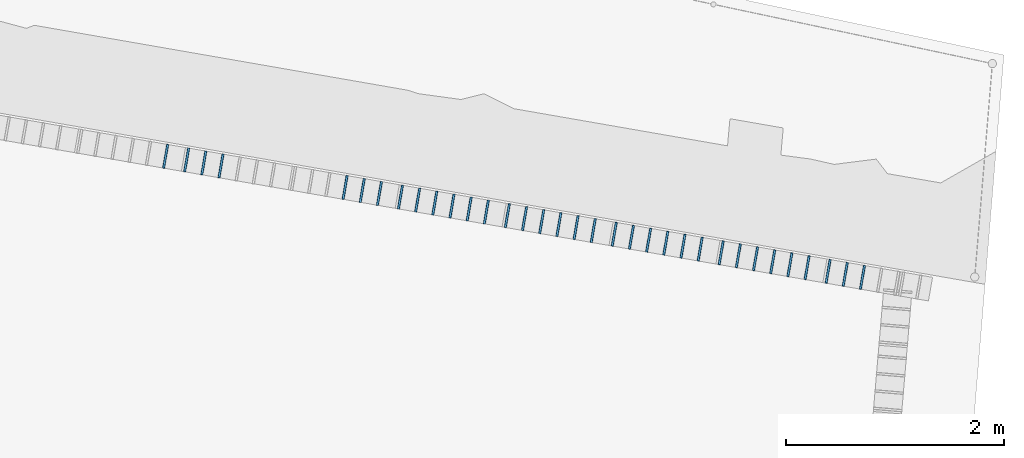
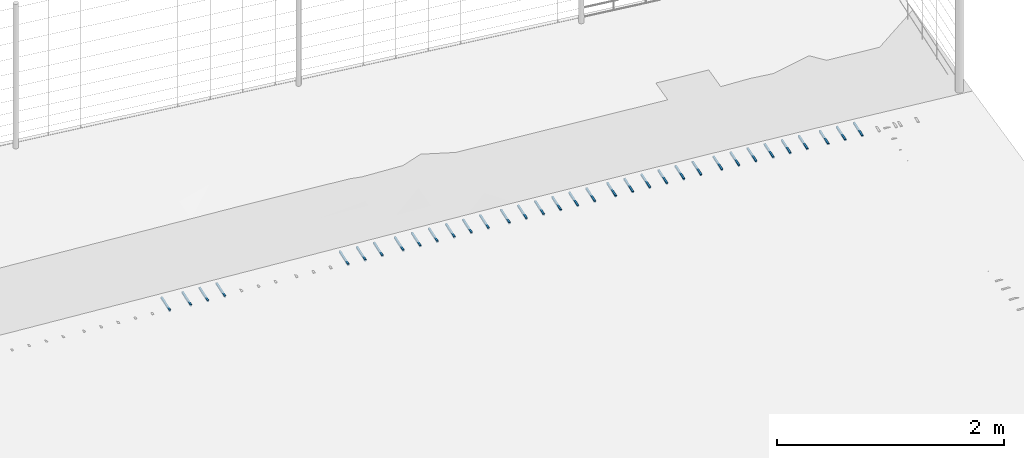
# Not in any storey, part 22 of 72: 34 members.
"""IFC4 model written with IfcOpenShell, lengths in metres."""

from ifc_helpers import new_model, si_unit, direction, frame, origin_with_axes, place, context, subcontext, project, spatial, rectangle, extrude, material, material_profile, profile_set, profile_usage, type_object, element, save


model = new_model("IFC4")

# Units and contexts
model_context = context("Model", 3, precision=1e-05, world=origin_with_axes(), true_north=direction((0.0, 1.0)))
body_context = subcontext(model_context, "Body", "Model", "MODEL_VIEW")
ifc_project = project(units=[si_unit("AREAUNIT", "SQUARE_METRE"), si_unit("VOLUMEUNIT", "CUBIC_METRE"), si_unit("LENGTHUNIT", "METRE")], contexts=[model_context])

# Site
site_placement = place(None, origin_with_axes())
site = spatial("IfcSite", under=ifc_project, at=site_placement, Name="Lares · Rua das Mercês · artigo 4771")

# Members
ifc_material = material(Name="Aço galvanizado / Stahl verzinkt", Category="steel")
ifc_material_profile = material_profile(ifc_material, rectangle(XDim=0.018, YDim=0.018))
ifc_profile_set = profile_set([ifc_material_profile], Name="R0.018")
ifc_profile_usage_1 = profile_usage(ifc_profile_set)
member_type = type_object("IfcMemberType", Name="R0.018 / galvanized", PredefinedType="NOTDEFINED", material=ifc_profile_set)
member_1_placement = place(site_placement, frame((76.1539265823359, 6.55788740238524, 16.1004053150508), z_axis=(0.171132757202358, 0.985247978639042, 0.0), x_axis=(0.985247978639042, -0.171132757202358, 0.0)))
element("IfcMember", 1, at=member_1_placement, inside=site, type_object=member_type, material=ifc_profile_usage_1, Name="Acesso · dreno lateral raso · grelha", context=body_context, shape_type="SweptSolid", body=[
    extrude(rectangle(XDim=0.018, YDim=0.018), origin_with_axes(), (0.0, 0.0, 1.0), 0.219999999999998),
])
ifc_profile_usage_2 = profile_usage(ifc_profile_set)
member_2_placement = place(site_placement, frame((76.3467559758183, 6.5243939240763, 16.11106252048), z_axis=(0.171131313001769, 0.985248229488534, 0.0), x_axis=(0.985248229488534, -0.171131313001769, 0.0)))
element("IfcMember", 2, at=member_2_placement, inside=site, type_object=member_type, material=ifc_profile_usage_2, Name="Acesso · dreno lateral raso · grelha", context=body_context, shape_type="SweptSolid", body=[
    extrude(rectangle(XDim=0.018, YDim=0.018), origin_with_axes(), (0.0, 0.0, 1.0), 0.219999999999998),
])
ifc_profile_usage_3 = profile_usage(ifc_profile_set)
member_3_placement = place(site_placement, frame((76.5043956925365, 6.49701291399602, 16.1197749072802), z_axis=(0.171131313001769, 0.985248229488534, 0.0), x_axis=(0.985248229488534, -0.171131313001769, 0.0)))
element("IfcMember", 3, at=member_3_placement, inside=site, type_object=member_type, material=ifc_profile_usage_3, Name="Acesso · dreno lateral raso · grelha", context=body_context, shape_type="SweptSolid", body=[
    extrude(rectangle(XDim=0.018, YDim=0.018), origin_with_axes(), (0.0, 0.0, 1.0), 0.219999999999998),
])
ifc_profile_usage_4 = profile_usage(ifc_profile_set)
member_4_placement = place(site_placement, frame((76.6620354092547, 6.46963190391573, 16.1284872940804), z_axis=(0.171131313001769, 0.985248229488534, 0.0), x_axis=(0.985248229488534, -0.171131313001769, 0.0)))
element("IfcMember", 4, at=member_4_placement, inside=site, type_object=member_type, material=ifc_profile_usage_4, Name="Acesso · dreno lateral raso · grelha", context=body_context, shape_type="SweptSolid", body=[
    extrude(rectangle(XDim=0.018, YDim=0.018), origin_with_axes(), (0.0, 0.0, 1.0), 0.219999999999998),
])
ifc_profile_usage_5 = profile_usage(ifc_profile_set)
member_5_placement = place(site_placement, frame((77.8007136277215, 6.2718516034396, 16.1914195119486), z_axis=(0.171129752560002, 0.985248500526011, 0.0), x_axis=(0.985248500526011, -0.171129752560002, 0.0)))
element("IfcMember", 5, at=member_5_placement, inside=site, type_object=member_type, material=ifc_profile_usage_5, Name="Acesso · dreno lateral raso · grelha", context=body_context, shape_type="SweptSolid", body=[
    extrude(rectangle(XDim=0.018, YDim=0.018), origin_with_axes(), (0.0, 0.0, 1.0), 0.220000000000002),
])
ifc_profile_usage_6 = profile_usage(ifc_profile_set)
member_6_placement = place(site_placement, frame((77.9583533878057, 6.24447084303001, 16.2001319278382), z_axis=(0.171129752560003, 0.985248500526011, 0.0), x_axis=(0.985248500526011, -0.171129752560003, 0.0)))
element("IfcMember", 6, at=member_6_placement, inside=site, type_object=member_type, material=ifc_profile_usage_6, Name="Acesso · dreno lateral raso · grelha", context=body_context, shape_type="SweptSolid", body=[
    extrude(rectangle(XDim=0.018, YDim=0.018), origin_with_axes(), (0.0, 0.0, 1.0), 0.220000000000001),
])
ifc_profile_usage_7 = profile_usage(ifc_profile_set)
member_7_placement = place(site_placement, frame((78.1159931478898, 6.21709008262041, 16.2088443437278), z_axis=(0.171129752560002, 0.985248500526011, 0.0), x_axis=(0.985248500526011, -0.171129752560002, 0.0)))
element("IfcMember", 7, at=member_7_placement, inside=site, type_object=member_type, material=ifc_profile_usage_7, Name="Acesso · dreno lateral raso · grelha", context=body_context, shape_type="SweptSolid", body=[
    extrude(rectangle(XDim=0.018, YDim=0.018), origin_with_axes(), (0.0, 0.0, 1.0), 0.220000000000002),
])
ifc_profile_usage_8 = profile_usage(ifc_profile_set)
member_8_placement = place(site_placement, frame((78.3088438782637, 6.18359351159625, 16.2195027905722), z_axis=(0.171128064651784, 0.985248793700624, 0.0), x_axis=(0.985248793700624, -0.171128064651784, 0.0)))
element("IfcMember", 8, at=member_8_placement, inside=site, type_object=member_type, material=ifc_profile_usage_8, Name="Acesso · dreno lateral raso · grelha", context=body_context, shape_type="SweptSolid", body=[
    extrude(rectangle(XDim=0.018, YDim=0.018), origin_with_axes(), (0.0, 0.0, 1.0), 0.219999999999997),
])
ifc_profile_usage_9 = profile_usage(ifc_profile_set)
member_9_placement = place(site_placement, frame((78.4664836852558, 6.15621302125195, 16.2282152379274), z_axis=(0.171128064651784, 0.985248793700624, 0.0), x_axis=(0.985248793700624, -0.171128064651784, 0.0)))
element("IfcMember", 9, at=member_9_placement, inside=site, type_object=member_type, material=ifc_profile_usage_9, Name="Acesso · dreno lateral raso · grelha", context=body_context, shape_type="SweptSolid", body=[
    extrude(rectangle(XDim=0.018, YDim=0.018), origin_with_axes(), (0.0, 0.0, 1.0), 0.219999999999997),
])
ifc_profile_usage_10 = profile_usage(ifc_profile_set)
member_10_placement = place(site_placement, frame((78.6241234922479, 6.12883253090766, 16.2369276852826), z_axis=(0.171128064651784, 0.985248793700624, 0.0), x_axis=(0.985248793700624, -0.171128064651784, 0.0)))
element("IfcMember", 10, at=member_10_placement, inside=site, type_object=member_type, material=ifc_profile_usage_10, Name="Acesso · dreno lateral raso · grelha", context=body_context, shape_type="SweptSolid", body=[
    extrude(rectangle(XDim=0.018, YDim=0.018), origin_with_axes(), (0.0, 0.0, 1.0), 0.219999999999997),
])
ifc_profile_usage_11 = profile_usage(ifc_profile_set)
member_11_placement = place(site_placement, frame((78.78176329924, 6.10145204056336, 16.2456401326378), z_axis=(0.171128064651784, 0.985248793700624, 0.0), x_axis=(0.985248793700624, -0.171128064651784, 0.0)))
element("IfcMember", 11, at=member_11_placement, inside=site, type_object=member_type, material=ifc_profile_usage_11, Name="Acesso · dreno lateral raso · grelha", context=body_context, shape_type="SweptSolid", body=[
    extrude(rectangle(XDim=0.018, YDim=0.018), origin_with_axes(), (0.0, 0.0, 1.0), 0.219999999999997),
])
ifc_profile_usage_12 = profile_usage(ifc_profile_set)
member_12_placement = place(site_placement, frame((78.939403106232, 6.07407155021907, 16.254352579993), z_axis=(0.171128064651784, 0.985248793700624, 0.0), x_axis=(0.985248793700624, -0.171128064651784, 0.0)))
element("IfcMember", 12, at=member_12_placement, inside=site, type_object=member_type, material=ifc_profile_usage_12, Name="Acesso · dreno lateral raso · grelha", context=body_context, shape_type="SweptSolid", body=[
    extrude(rectangle(XDim=0.018, YDim=0.018), origin_with_axes(), (0.0, 0.0, 1.0), 0.219999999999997),
])
ifc_profile_usage_13 = profile_usage(ifc_profile_set)
member_13_placement = place(site_placement, frame((79.0970429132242, 6.04669105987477, 16.2630650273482), z_axis=(0.171128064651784, 0.985248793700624, 0.0), x_axis=(0.985248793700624, -0.171128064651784, 0.0)))
element("IfcMember", 13, at=member_13_placement, inside=site, type_object=member_type, material=ifc_profile_usage_13, Name="Acesso · dreno lateral raso · grelha", context=body_context, shape_type="SweptSolid", body=[
    extrude(rectangle(XDim=0.018, YDim=0.018), origin_with_axes(), (0.0, 0.0, 1.0), 0.219999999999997),
])
ifc_profile_usage_14 = profile_usage(ifc_profile_set)
member_14_placement = place(site_placement, frame((79.2899051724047, 6.01319283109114, 16.2735745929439), z_axis=(0.171126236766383, 0.985249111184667, 0.0), x_axis=(0.985249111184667, -0.171126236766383, 0.0)))
element("IfcMember", 14, at=member_14_placement, inside=site, type_object=member_type, material=ifc_profile_usage_14, Name="Acesso · dreno lateral raso · grelha", context=body_context, shape_type="SweptSolid", body=[
    extrude(rectangle(XDim=0.018, YDim=0.018), origin_with_axes(), (0.0, 0.0, 1.0), 0.220000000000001),
])
ifc_profile_usage_15 = profile_usage(ifc_profile_set)
member_15_placement = place(site_placement, frame((79.4475450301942, 5.98581263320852, 16.2814894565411), z_axis=(0.171126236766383, 0.985249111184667, 0.0), x_axis=(0.985249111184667, -0.171126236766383, 0.0)))
element("IfcMember", 15, at=member_15_placement, inside=site, type_object=member_type, material=ifc_profile_usage_15, Name="Acesso · dreno lateral raso · grelha", context=body_context, shape_type="SweptSolid", body=[
    extrude(rectangle(XDim=0.018, YDim=0.018), origin_with_axes(), (0.0, 0.0, 1.0), 0.220000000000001),
])
ifc_profile_usage_16 = profile_usage(ifc_profile_set)
member_16_placement = place(site_placement, frame((79.6051848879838, 5.95843243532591, 16.2894043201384), z_axis=(0.171126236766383, 0.985249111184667, 0.0), x_axis=(0.985249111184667, -0.171126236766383, 0.0)))
element("IfcMember", 16, at=member_16_placement, inside=site, type_object=member_type, material=ifc_profile_usage_16, Name="Acesso · dreno lateral raso · grelha", context=body_context, shape_type="SweptSolid", body=[
    extrude(rectangle(XDim=0.018, YDim=0.018), origin_with_axes(), (0.0, 0.0, 1.0), 0.220000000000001),
])
ifc_profile_usage_17 = profile_usage(ifc_profile_set)
member_17_placement = place(site_placement, frame((79.7628247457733, 5.9310522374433, 16.2973191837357), z_axis=(0.171126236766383, 0.985249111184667, 0.0), x_axis=(0.985249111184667, -0.171126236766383, 0.0)))
element("IfcMember", 17, at=member_17_placement, inside=site, type_object=member_type, material=ifc_profile_usage_17, Name="Acesso · dreno lateral raso · grelha", context=body_context, shape_type="SweptSolid", body=[
    extrude(rectangle(XDim=0.018, YDim=0.018), origin_with_axes(), (0.0, 0.0, 1.0), 0.220000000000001),
])
ifc_profile_usage_18 = profile_usage(ifc_profile_set)
member_18_placement = place(site_placement, frame((79.9204646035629, 5.90367203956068, 16.3052340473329), z_axis=(0.171126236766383, 0.985249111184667, 0.0), x_axis=(0.985249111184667, -0.171126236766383, 0.0)))
element("IfcMember", 18, at=member_18_placement, inside=site, type_object=member_type, material=ifc_profile_usage_18, Name="Acesso · dreno lateral raso · grelha", context=body_context, shape_type="SweptSolid", body=[
    extrude(rectangle(XDim=0.018, YDim=0.018), origin_with_axes(), (0.0, 0.0, 1.0), 0.220000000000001),
])
ifc_profile_usage_19 = profile_usage(ifc_profile_set)
member_19_placement = place(site_placement, frame((80.0781044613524, 5.87629184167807, 16.3131489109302), z_axis=(0.171126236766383, 0.985249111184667, 0.0), x_axis=(0.985249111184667, -0.171126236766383, 0.0)))
element("IfcMember", 19, at=member_19_placement, inside=site, type_object=member_type, material=ifc_profile_usage_19, Name="Acesso · dreno lateral raso · grelha", context=body_context, shape_type="SweptSolid", body=[
    extrude(rectangle(XDim=0.018, YDim=0.018), origin_with_axes(), (0.0, 0.0, 1.0), 0.220000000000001),
])
ifc_profile_usage_20 = profile_usage(ifc_profile_set)
member_20_placement = place(site_placement, frame((80.2709788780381, 5.84279187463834, 16.3226570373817), z_axis=(0.171124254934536, 0.985249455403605, 0.0), x_axis=(0.985249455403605, -0.171124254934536, 0.0)))
element("IfcMember", 20, at=member_20_placement, inside=site, type_object=member_type, material=ifc_profile_usage_20, Name="Acesso · dreno lateral raso · grelha", context=body_context, shape_type="SweptSolid", body=[
    extrude(rectangle(XDim=0.018, YDim=0.018), origin_with_axes(), (0.0, 0.0, 1.0), 0.220000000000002),
])
ifc_profile_usage_21 = profile_usage(ifc_profile_set)
member_21_placement = place(site_placement, frame((80.4286187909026, 5.81541199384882, 16.3296342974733), z_axis=(0.171124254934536, 0.985249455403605, 0.0), x_axis=(0.985249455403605, -0.171124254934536, 0.0)))
element("IfcMember", 21, at=member_21_placement, inside=site, type_object=member_type, material=ifc_profile_usage_21, Name="Acesso · dreno lateral raso · grelha", context=body_context, shape_type="SweptSolid", body=[
    extrude(rectangle(XDim=0.018, YDim=0.018), origin_with_axes(), (0.0, 0.0, 1.0), 0.220000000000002),
])
ifc_profile_usage_22 = profile_usage(ifc_profile_set)
member_22_placement = place(site_placement, frame((80.5862587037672, 5.7880321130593, 16.3366115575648), z_axis=(0.171124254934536, 0.985249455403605, 0.0), x_axis=(0.985249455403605, -0.171124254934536, 0.0)))
element("IfcMember", 22, at=member_22_placement, inside=site, type_object=member_type, material=ifc_profile_usage_22, Name="Acesso · dreno lateral raso · grelha", context=body_context, shape_type="SweptSolid", body=[
    extrude(rectangle(XDim=0.018, YDim=0.018), origin_with_axes(), (0.0, 0.0, 1.0), 0.220000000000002),
])
ifc_profile_usage_23 = profile_usage(ifc_profile_set)
member_23_placement = place(site_placement, frame((80.7438986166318, 5.76065223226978, 16.3435888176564), z_axis=(0.171124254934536, 0.985249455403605, 0.0), x_axis=(0.985249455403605, -0.171124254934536, 0.0)))
element("IfcMember", 23, at=member_23_placement, inside=site, type_object=member_type, material=ifc_profile_usage_23, Name="Acesso · dreno lateral raso · grelha", context=body_context, shape_type="SweptSolid", body=[
    extrude(rectangle(XDim=0.018, YDim=0.018), origin_with_axes(), (0.0, 0.0, 1.0), 0.220000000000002),
])
ifc_profile_usage_24 = profile_usage(ifc_profile_set)
member_24_placement = place(site_placement, frame((80.9015385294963, 5.73327235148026, 16.350566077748), z_axis=(0.171124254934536, 0.985249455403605, 0.0), x_axis=(0.985249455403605, -0.171124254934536, 0.0)))
element("IfcMember", 24, at=member_24_placement, inside=site, type_object=member_type, material=ifc_profile_usage_24, Name="Acesso · dreno lateral raso · grelha", context=body_context, shape_type="SweptSolid", body=[
    extrude(rectangle(XDim=0.018, YDim=0.018), origin_with_axes(), (0.0, 0.0, 1.0), 0.220000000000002),
])
ifc_profile_usage_25 = profile_usage(ifc_profile_set)
member_25_placement = place(site_placement, frame((81.0591784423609, 5.70589247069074, 16.3575433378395), z_axis=(0.171124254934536, 0.985249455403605, 0.0), x_axis=(0.985249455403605, -0.171124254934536, 0.0)))
element("IfcMember", 25, at=member_25_placement, inside=site, type_object=member_type, material=ifc_profile_usage_25, Name="Acesso · dreno lateral raso · grelha", context=body_context, shape_type="SweptSolid", body=[
    extrude(rectangle(XDim=0.018, YDim=0.018), origin_with_axes(), (0.0, 0.0, 1.0), 0.220000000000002),
])
ifc_profile_usage_26 = profile_usage(ifc_profile_set)
member_26_placement = place(site_placement, frame((81.2520656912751, 5.6723906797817, 16.3658877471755), z_axis=(0.171122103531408, 0.985249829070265, 0.0), x_axis=(0.985249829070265, -0.171122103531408, 0.0)))
element("IfcMember", 26, at=member_26_placement, inside=site, type_object=member_type, material=ifc_profile_usage_26, Name="Acesso · dreno lateral raso · grelha", context=body_context, shape_type="SweptSolid", body=[
    extrude(rectangle(XDim=0.018, YDim=0.018), origin_with_axes(), (0.0, 0.0, 1.0), 0.220000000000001),
])
ifc_profile_usage_27 = profile_usage(ifc_profile_set)
member_27_placement = place(site_placement, frame((81.4097056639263, 5.64501114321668, 16.3718361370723), z_axis=(0.171122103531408, 0.985249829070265, 0.0), x_axis=(0.985249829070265, -0.171122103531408, 0.0)))
element("IfcMember", 27, at=member_27_placement, inside=site, type_object=member_type, material=ifc_profile_usage_27, Name="Acesso · dreno lateral raso · grelha", context=body_context, shape_type="SweptSolid", body=[
    extrude(rectangle(XDim=0.018, YDim=0.018), origin_with_axes(), (0.0, 0.0, 1.0), 0.220000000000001),
])
ifc_profile_usage_28 = profile_usage(ifc_profile_set)
member_28_placement = place(site_placement, frame((81.5673456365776, 5.61763160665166, 16.377784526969), z_axis=(0.171122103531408, 0.985249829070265, 0.0), x_axis=(0.985249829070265, -0.171122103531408, 0.0)))
element("IfcMember", 28, at=member_28_placement, inside=site, type_object=member_type, material=ifc_profile_usage_28, Name="Acesso · dreno lateral raso · grelha", context=body_context, shape_type="SweptSolid", body=[
    extrude(rectangle(XDim=0.018, YDim=0.018), origin_with_axes(), (0.0, 0.0, 1.0), 0.220000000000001),
])
ifc_profile_usage_29 = profile_usage(ifc_profile_set)
member_29_placement = place(site_placement, frame((81.7249856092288, 5.59025207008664, 16.3837329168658), z_axis=(0.171122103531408, 0.985249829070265, 0.0), x_axis=(0.985249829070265, -0.171122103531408, 0.0)))
element("IfcMember", 29, at=member_29_placement, inside=site, type_object=member_type, material=ifc_profile_usage_29, Name="Acesso · dreno lateral raso · grelha", context=body_context, shape_type="SweptSolid", body=[
    extrude(rectangle(XDim=0.018, YDim=0.018), origin_with_axes(), (0.0, 0.0, 1.0), 0.220000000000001),
])
ifc_profile_usage_30 = profile_usage(ifc_profile_set)
member_30_placement = place(site_placement, frame((81.8826255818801, 5.56287253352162, 16.3896813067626), z_axis=(0.171122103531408, 0.985249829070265, 0.0), x_axis=(0.985249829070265, -0.171122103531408, 0.0)))
element("IfcMember", 30, at=member_30_placement, inside=site, type_object=member_type, material=ifc_profile_usage_30, Name="Acesso · dreno lateral raso · grelha", context=body_context, shape_type="SweptSolid", body=[
    extrude(rectangle(XDim=0.018, YDim=0.018), origin_with_axes(), (0.0, 0.0, 1.0), 0.220000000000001),
])
ifc_profile_usage_31 = profile_usage(ifc_profile_set)
member_31_placement = place(site_placement, frame((82.0402655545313, 5.53549299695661, 16.3956296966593), z_axis=(0.171122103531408, 0.985249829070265, 0.0), x_axis=(0.985249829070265, -0.171122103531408, 0.0)))
element("IfcMember", 31, at=member_31_placement, inside=site, type_object=member_type, material=ifc_profile_usage_31, Name="Acesso · dreno lateral raso · grelha", context=body_context, shape_type="SweptSolid", body=[
    extrude(rectangle(XDim=0.018, YDim=0.018), origin_with_axes(), (0.0, 0.0, 1.0), 0.220000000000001),
])
ifc_profile_usage_32 = profile_usage(ifc_profile_set)
member_32_placement = place(site_placement, frame((82.2331663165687, 5.50198928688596, 16.4027249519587), z_axis=(0.171120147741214, 0.985250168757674, 0.0), x_axis=(0.985250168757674, -0.171120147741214, 0.0)))
element("IfcMember", 32, at=member_32_placement, inside=site, type_object=member_type, material=ifc_profile_usage_32, Name="Acesso · dreno lateral raso · grelha", context=body_context, shape_type="SweptSolid", body=[
    extrude(rectangle(XDim=0.018, YDim=0.018), origin_with_axes(), (0.0, 0.0, 1.0), 0.219999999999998),
])
ifc_profile_usage_33 = profile_usage(ifc_profile_set)
member_33_placement = place(site_placement, frame((82.3908063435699, 5.47461006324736, 16.4076938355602), z_axis=(0.171120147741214, 0.985250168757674, 0.0), x_axis=(0.985250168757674, -0.171120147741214, 0.0)))
element("IfcMember", 33, at=member_33_placement, inside=site, type_object=member_type, material=ifc_profile_usage_33, Name="Acesso · dreno lateral raso · grelha", context=body_context, shape_type="SweptSolid", body=[
    extrude(rectangle(XDim=0.018, YDim=0.018), origin_with_axes(), (0.0, 0.0, 1.0), 0.219999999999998),
])
ifc_profile_usage_34 = profile_usage(ifc_profile_set)
member_34_placement = place(site_placement, frame((82.5484463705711, 5.44723083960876, 16.4126627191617), z_axis=(0.171120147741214, 0.985250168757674, 0.0), x_axis=(0.985250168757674, -0.171120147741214, 0.0)))
element("IfcMember", 34, at=member_34_placement, inside=site, type_object=member_type, material=ifc_profile_usage_34, Name="Acesso · dreno lateral raso · grelha", context=body_context, shape_type="SweptSolid", body=[
    extrude(rectangle(XDim=0.018, YDim=0.018), origin_with_axes(), (0.0, 0.0, 1.0), 0.219999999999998),
])

save(model, "model.ifc")
